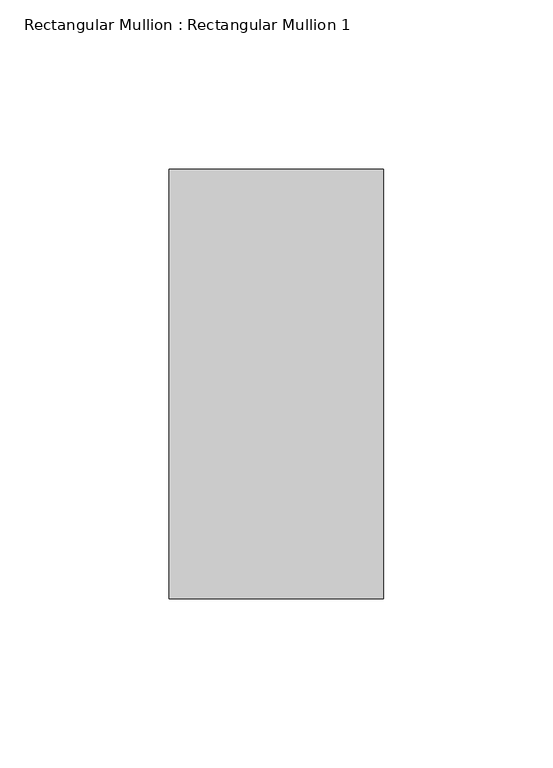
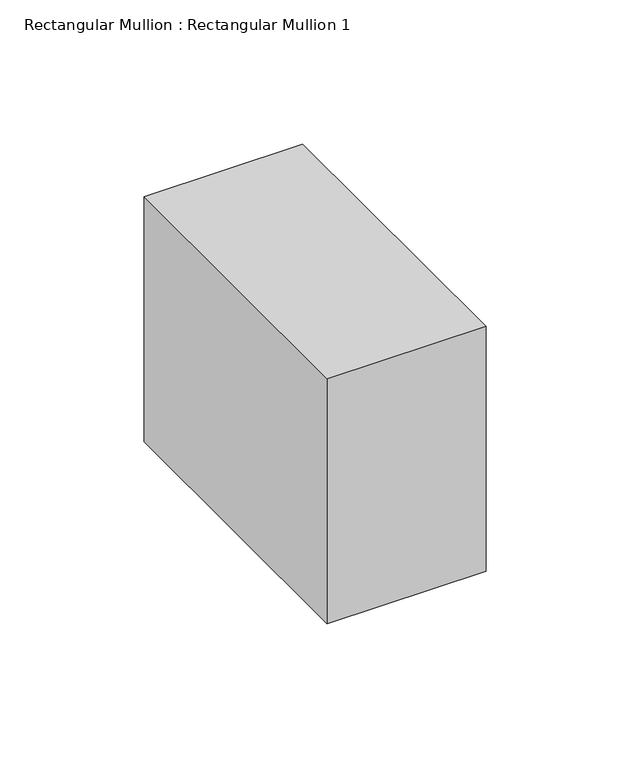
"""IFC4 building model written with IfcOpenShell, lengths in millimetres: member geometry, Rectangular Mullion : Rectangular Mullion 1."""

import ifcopenshell
import ifcopenshell.guid

model = None  # the IFC model being written
_history = None  # IfcOwnerHistory: only IFC2X3 demands one
_inside = {}  # id of a spatial element -> (the spatial element, [elements in it])
_under = {}  # id of a project, library or spatial element -> (it, [spatial elements below it])
_declared = {}  # id of a project -> (the project, [libraries it declares])
_typed = {}  # id of a type object -> (the type object, [elements of that type])
_made_of = {}  # id of a material, layer set ... -> (it, [elements and type objects made of it])


def new_model(schema):
    """Start an empty IFC model of exactly this schema.

    Asked for "IFC4X3", IfcOpenShell would pick the latest addendum, in which some entities
    have other attributes; the version numbers below select the first issue.
    IFC2X3 requires an IfcOwnerHistory on every rooted entity: one is made here for all.
    """
    global model, _history
    if schema == "IFC4X3":
        model = ifcopenshell.file(schema_version=(4, 3, 0, 0))
    else:
        model = ifcopenshell.file(schema=schema)
    _inside.clear()
    _under.clear()
    _declared.clear()
    _typed.clear()
    _made_of.clear()
    _history = None
    if model.schema == "IFC2X3":
        org = make("IfcOrganization", Name="unknown")
        user = make(
            "IfcPersonAndOrganization",
            ThePerson=make("IfcPerson", FamilyName="unknown"),
            TheOrganization=org,
        )
        app = make(
            "IfcApplication",
            ApplicationDeveloper=org,
            Version="unknown",
            ApplicationFullName="unknown",
            ApplicationIdentifier="unknown",
        )
        _history = make(
            "IfcOwnerHistory",
            OwningUser=user,
            OwningApplication=app,
            ChangeAction="ADDED",
            CreationDate=0,
        )
    return model


def make(cls, **values):
    """One entity of the class cls with the attributes given. An attribute that is None is left unset."""
    return model.create_entity(
        cls, **{name: value for name, value in values.items() if value is not None}
    )


def rooted(cls, **values):
    """An entity with a GlobalId (a new one), such as an element, a storey or a relation."""
    return make(cls, GlobalId=ifcopenshell.guid.new(), OwnerHistory=_history, **values)


def si_unit(unit_type, name, prefix=None):
    """IfcSIUnit, for example si_unit("LENGTHUNIT", "METRE", prefix="MILLI")."""
    return make("IfcSIUnit", UnitType=unit_type, Prefix=prefix, Name=name)


def assignment(units):
    """IfcUnitAssignment: the units of a project."""
    return None if units is None else make("IfcUnitAssignment", Units=units)


def point(xyz):
    """IfcCartesianPoint."""
    return None if xyz is None else make("IfcCartesianPoint", Coordinates=xyz)


def direction(xyz):
    """IfcDirection."""
    return None if xyz is None else make("IfcDirection", DirectionRatios=xyz)


def frame(location, z_axis=None, x_axis=None):
    """IfcAxis2Placement3D, a coordinate frame: its origin and axes. An axis left out is left unset."""
    return make(
        "IfcAxis2Placement3D",
        Location=point(location),
        Axis=direction(z_axis),
        RefDirection=direction(x_axis),
    )


def origin():
    """The frame at (0, 0, 0) with its axes left unset."""
    return frame((0.0, 0.0, 0.0))


def place(relative_to, where):
    """IfcLocalPlacement: puts the frame where relative to a parent placement (None: the world)."""
    return make(
        "IfcLocalPlacement", PlacementRelTo=relative_to, RelativePlacement=where
    )


def context(
    kind, dimensions, precision=None, world=None, true_north=None, identifier=None
):
    """IfcGeometricRepresentationContext, for example the 3D "Model" context."""
    return make(
        "IfcGeometricRepresentationContext",
        ContextIdentifier=identifier,
        ContextType=kind,
        CoordinateSpaceDimension=dimensions,
        Precision=precision,
        WorldCoordinateSystem=world,
        TrueNorth=true_north,
    )


def project(units=None, contexts=None):
    """IfcProject with its units and contexts."""
    return rooted(
        "IfcProject",
        Name="project",
        RepresentationContexts=contexts,
        UnitsInContext=assignment(units),
    )


def spatial(cls, under=None, at=None, **own):
    """A site, building, storey or space (cls), placed at a placement, below another one or the project."""
    s = rooted(cls, ObjectPlacement=at, **own)
    if under is not None:
        _under.setdefault(under.id(), (under, []))[1].append(s)
    return s


def polyline(points):
    """IfcPolyline through the points."""
    return make("IfcPolyline", Points=[point(p) for p in points])


def outline(outer, holes=None, kind="AREA"):
    """IfcArbitraryClosedProfileDef: a profile drawn as a closed curve; with holes, ...WithVoids."""
    if holes is None:
        return make("IfcArbitraryClosedProfileDef", ProfileType=kind, OuterCurve=outer)
    return make(
        "IfcArbitraryProfileDefWithVoids",
        ProfileType=kind,
        OuterCurve=outer,
        InnerCurves=holes,
    )


def extrude(swept, where, along, depth):
    """IfcExtrudedAreaSolid: the profile swept, set in the frame where, extruded along a direction by depth."""
    return make(
        "IfcExtrudedAreaSolid",
        SweptArea=swept,
        Position=where,
        ExtrudedDirection=direction(along),
        Depth=depth,
    )


def shape(context_of_items, identifier, shape_type, items):
    """IfcShapeRepresentation: the items that make up one representation, for example the "Body"."""
    return make(
        "IfcShapeRepresentation",
        ContextOfItems=context_of_items,
        RepresentationIdentifier=identifier,
        RepresentationType=shape_type,
        Items=items,
    )


def source(mapping_origin, context_of_items, identifier, shape_type, items):
    """IfcRepresentationMap: a shape defined once, which mapped items show again and again."""
    return make(
        "IfcRepresentationMap",
        MappingOrigin=mapping_origin,
        MappedRepresentation=shape(context_of_items, identifier, shape_type, items),
    )


def transform(
    local_origin,
    x_axis=None,
    y_axis=None,
    z_axis=None,
    scale=None,
    scale2=None,
    scale3=None,
    uniform=True,
):
    """IfcCartesianTransformationOperator3D, or its non-uniform kind. x_axis, y_axis, z_axis: its Axis1, 2, 3."""
    if uniform:
        return make(
            "IfcCartesianTransformationOperator3D",
            Axis1=direction(x_axis),
            Axis2=direction(y_axis),
            LocalOrigin=point(local_origin),
            Scale=scale,
            Axis3=direction(z_axis),
        )
    return make(
        "IfcCartesianTransformationOperator3DnonUniform",
        Axis1=direction(x_axis),
        Axis2=direction(y_axis),
        LocalOrigin=point(local_origin),
        Scale=scale,
        Axis3=direction(z_axis),
        Scale2=scale2,
        Scale3=scale3,
    )


def mapped(mapping_source, mapping_target):
    """IfcMappedItem: shows the shape of a source again, moved by a transform."""
    return make(
        "IfcMappedItem", MappingSource=mapping_source, MappingTarget=mapping_target
    )


def made_of(thing, what):
    """Note that an element or type object is made of a material, layer set ...; save() writes the relation."""
    if what is not None:
        _made_of.setdefault(what.id(), (what, []))[1].append(thing)
    return thing


def element(
    cls,
    number,
    at=None,
    inside=None,
    cuts=None,
    type_object=None,
    material=None,
    context=None,
    identifier="Body",
    shape_type=None,
    held_by="IfcProductDefinitionShape",
    body=None,
    shapes=None,
    **own,
):
    """One element of the class cls, such as IfcWall. Its Tag is "e" and its number.

    at: its placement. inside: the storey or other place that contains it. cuts: it is an
    opening in that element (IfcRelVoidsElement). A single representation is given by context,
    identifier, shape_type and body (its items); several are given by shapes. held_by: the class
    of the entity that holds the representations. save() writes the other relations.
    """
    e = rooted(cls, Tag="e%d" % number, ObjectPlacement=at, **own)
    if body is not None:
        shapes = [shape(context, identifier, shape_type, body)]
    if shapes is not None:
        e.Representation = make(held_by, Representations=shapes)
    if inside is not None:
        _inside.setdefault(inside.id(), (inside, []))[1].append(e)
    if cuts is not None:
        rooted(
            "IfcRelVoidsElement", RelatingBuildingElement=cuts, RelatedOpeningElement=e
        )
    if type_object is not None:
        _typed.setdefault(type_object.id(), (type_object, []))[1].append(e)
    return made_of(e, material)


def aggregate(whole, parts):
    """IfcRelAggregates: a whole, such as a stair, and the parts it consists of."""
    return rooted("IfcRelAggregates", RelatingObject=whole, RelatedObjects=parts)


def save(model, path):
    """Write the relations noted so far, then the file.

    IfcRelAggregates (storeys below a building ...), IfcRelContainedInSpatialStructure (elements
    in a storey), IfcRelDefinesByType, IfcRelAssociatesMaterial and IfcRelDeclares: one each for
    every whole, place, type object, material and project.
    """
    for whole, parts in _under.values():
        aggregate(whole, parts)
    for where, things in _inside.values():
        rooted(
            "IfcRelContainedInSpatialStructure",
            RelatedElements=things,
            RelatingStructure=where,
        )
    for kind, things in _typed.values():
        rooted("IfcRelDefinesByType", RelatedObjects=things, RelatingType=kind)
    for what, things in _made_of.values():
        rooted("IfcRelAssociatesMaterial", RelatedObjects=things, RelatingMaterial=what)
    for by, libraries in _declared.values():
        rooted("IfcRelDeclares", RelatingContext=by, RelatedDefinitions=libraries)
    model.write(path)


def rectangular_mullion_rectangular_mullion_1_d8954efc(model_context):
    return source(origin(), model_context, "Body", "SweptSolid", [
        extrude(outline(polyline([(31.75, 63.5), (31.75, -63.5), (-31.75, -63.5), (-31.75, 63.5), (31.75, 63.5)])), frame((0.0, 0.0, -103.6338206), z_axis=(0.0, 0.0, 1.0), x_axis=(1.0, 0.0, 0.0)), (0.0, 0.0, 1.0), 103.6338206),
    ])


if __name__ == "__main__":
    model = new_model("IFC4")
    model_context = context("Model", 3, world=origin())
    ifc_project = project(units=[si_unit("LENGTHUNIT", "METRE", prefix="MILLI")], contexts=[model_context])
    site = spatial("IfcSite", under=ifc_project)
    building = spatial("IfcBuilding", under=site)
    placement = place(None, origin())
    rectangular_mullion_rectangular_mullion_1_shape = rectangular_mullion_rectangular_mullion_1_d8954efc(model_context)
    element("IfcMember", 1, ObjectType="Rectangular Mullion : Rectangular Mullion 1", at=placement, inside=building, context=model_context, shape_type="MappedRepresentation", body=[
        mapped(rectangular_mullion_rectangular_mullion_1_shape, transform((0.0, 0.0, 0.0), x_axis=(1.0, 0.0, 0.0), y_axis=(0.0, 1.0, 0.0), z_axis=(0.0, 0.0, 1.0))),
    ])
    save(model, "model.ifc")
